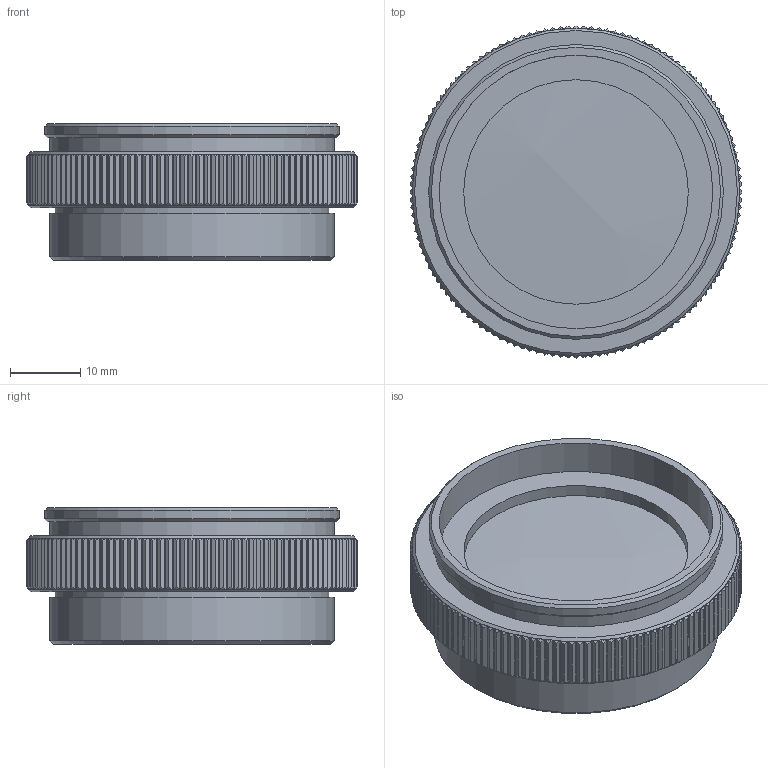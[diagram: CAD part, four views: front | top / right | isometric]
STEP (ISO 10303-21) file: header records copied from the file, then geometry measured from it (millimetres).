
FILE_DESCRIPTION(('STEP AP214'),'1');
FILE_NAME('TG-0.5.stp','2025-08-08T06:07:01',(' '),(' '),'Spatial InterOp 3D',' ',' ');
FILE_SCHEMA(('AUTOMOTIVE_DESIGN { 1 0 10303 214 1 1 1 1 }'));
Length unit declared in the file: metre
Products named in the file (2): TG-0.5; Component1
Assembly tree (1 placements, depth 2):
  TG-0.5
    Component1
Bounding box: 47.3 x 47.3 x 19.5 mm (x, y, z)
Volume: 20190.7 mm3; surface area: 8715 mm2
Topology: 1 solids, 2 shells, 555 faces, 1237 edges, 824 vertices
Faces by surface type: plane 538, cylinder 10, cone 6, sphere 1
Full cylindrical faces by diameter (mm): 30 x1, 32 x1, 34 x1, 35 x1, 39 x2, 40.5 x1, 40.6 x1, 42 x1, 46.7 x1
Entity records: 25739 total; most frequent: DIRECTION 2618, CARTESIAN_POINT 2589, ORIENTED_EDGE 2428, STYLED_ITEM 1768, PRESENTATION_STYLE_ASSIGNMENT 1768, COLOUR_RGB 1768, EDGE_CURVE 1214, CURVE_STYLE 1212
